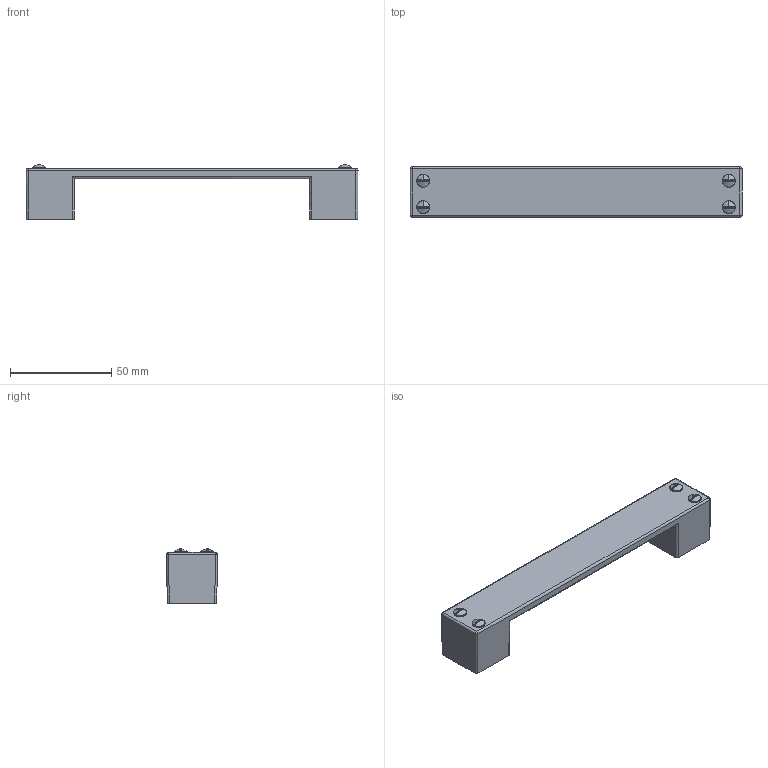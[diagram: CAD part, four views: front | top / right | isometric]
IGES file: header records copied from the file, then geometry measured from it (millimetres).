
Start section: C
Global section: file name: 8004-B2 X4.igs; native system: By Siemens PLM Incorporated; preprocessor: XPlus GENERIC/IGES 16.0.42; author: Author; organization: Title; date: 20210203.103714; units: millimetre
Bounding box: 163.98 x 24.98 x 26.78 mm (x, y, z)
Surface area: 18591 mm2 (no closed solid volume)
Topology: 0 solids, 0 shells, 131 faces, 654 edges, 650 vertices
Faces by surface type: bspline 131
